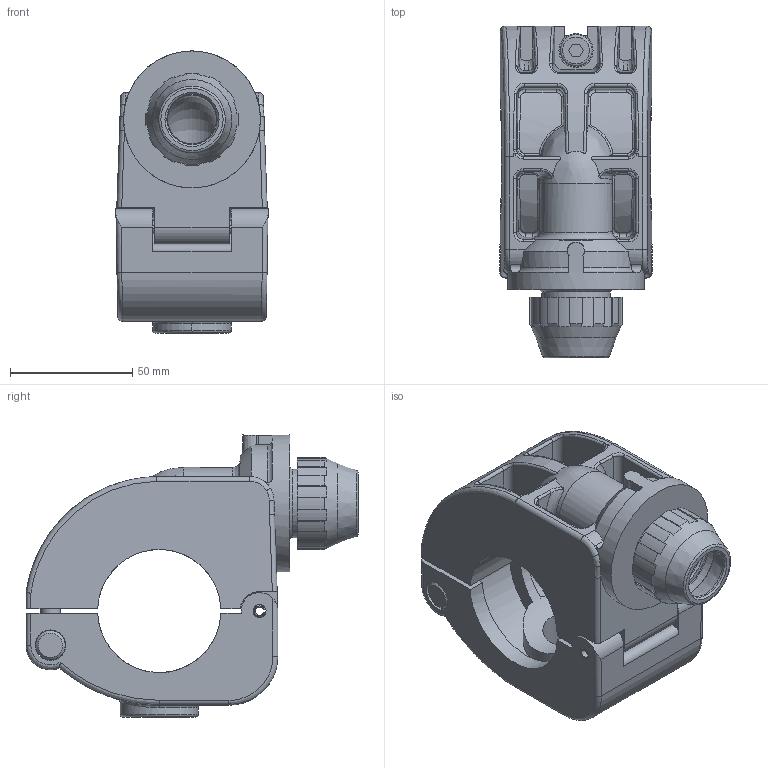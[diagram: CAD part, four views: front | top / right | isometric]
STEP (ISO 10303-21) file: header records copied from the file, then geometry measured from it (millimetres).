
FILE_DESCRIPTION( ( 'STEP AP214' ), '1' );
FILE_NAME( ' ', ' ', ( ' ' ), ( ' ' ), 'PSStep 11.0', 'VISI 17.0', ' ' );
FILE_SCHEMA( ( 'AUTOMOTIVE_DESIGN { 1 0 10303 214 1 1 1 1 }' ) );
Length unit declared in the file: millimetre
Products named in the file (9): 1; 2; 3; 4; 5; 6; 7; 8; 9
Bounding box: 62.29 x 135.77 x 115.35 mm (x, y, z)
Volume: 319696.7 mm3; surface area: 97550.3 mm2
Topology: 9 solids, 14 shells, 416 faces, 1049 edges, 666 vertices
Faces by surface type: cylinder 165, plane 140, bspline 86, torus 13, cone 12
Full cylindrical faces by diameter (mm): 5.3 x2, 5.8 x1, 8 x2, 9 x1, 12 x1, 12.5 x1, 13 x1, 14 x1, 20 x3, 20.6 x2, 24.9 x1, 28 x1, 29.568 x2, 29.88 x2, 31 x1, 31.88 x1, 33 x2, 36.149 x2, 56 x1
Entity records: 38351 total; most frequent: CARTESIAN_POINT 25661, ORIENTED_EDGE 1954, DIRECTION 1804, EDGE_CURVE 977, AXIS2_PLACEMENT_3D 711, VERTEX_POINT 648, EDGE_LOOP 501, FACE_OUTER_BOUND 454
